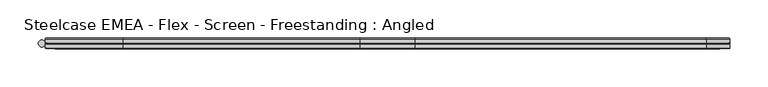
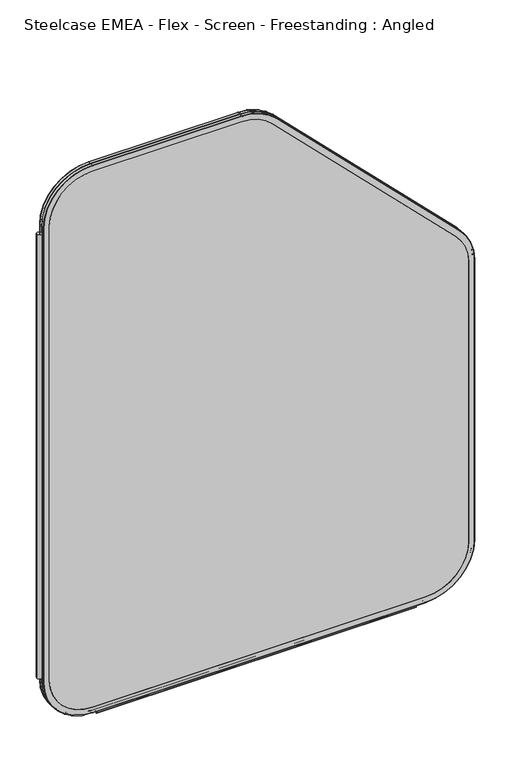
"""IFC4 building model written with IfcOpenShell, lengths in millimetres: furniture geometry, Steelcase EMEA - Flex - Screen - Freestanding : Angled."""

from ifc_helpers import new_model, si_unit, point, frame, frame_2d, origin, place, context, project, spatial, polyline, circle_curve, ellipse_curve, trimmed, segment, composite_curve, outline, extrude, source, transform, mapped, element, save
from ifc_brep_helpers import plane_surface, cylinder_surface, revolved_surface, advanced_brep


def steelcase_emea_flex_screen_freestanding_angled_e22ecdc3(model_context):
    return source(origin(), model_context, "Body", "SolidModel", [
        extrude(outline(composite_curve([segment(trimmed(circle_curve(frame_2d((4.5307839, 0.0)), 4.572), [point((-0.0412161, 0.0))], [point((9.1027839, 0.0))], False, "CARTESIAN"), True, "CONTINUOUS"), segment(trimmed(circle_curve(frame_2d((4.5307839, 0.0)), 4.572), [point((9.1027839, 0.0))], [point((-0.0412161, 0.0))], False, "CARTESIAN"), True, "CONTINUOUS")], self_intersect=False)), frame((0.0, 0.0, 115.57), z_axis=(0.0, 0.0, 1.0), x_axis=(1.0, 0.0, 0.0)), (0.0, 0.0, 1.0), 968.86),
        advanced_brep(
        [(110.7653521, 5.9845715, 4.9996464), (9.1653521, 5.9845715, 106.5996464), (10.0387806, 6.858, 106.5996464), (110.7653521, 6.858, 5.8730749), (110.7653521, 0.762, 4.9996464), (9.1653521, 0.762, 106.5996464), (110.7653521, 0.0, 5.7616464), (9.9273521, 0.0, 106.5996464), (110.7653521, 6.858, 17.6996464), (21.8653521, 6.858, 106.5996464), (21.8653521, 0.0, 106.5996464), (110.7653521, 0.0, 17.6996464), (798.4, 6.858, 5.8730749), (798.4, 5.9845715, 4.9996464), (798.4, 0.762, 4.9996464), (798.4, 0.0, 5.7616464), (798.4, 0.0, 17.6996464), (798.4, 6.858, 17.6996464), (900.0, 5.9845715, 106.5996464), (899.1265715, 6.858, 106.5996464), (900.0, 0.762, 106.5996464), (899.238, 0.0, 106.5996464), (887.3, 6.858, 106.5996464), (887.3, 0.0, 106.5996464), (899.1265715, 6.858, 718.9152099), (900.0, 5.9845715, 718.9152099), (900.0, 0.762, 718.9152099), (899.238, 0.0, 718.9152099), (887.3, 0.0, 718.9152099), (887.3, 6.858, 718.9152099), (870.242049, 5.9845715, 790.7572588), (869.6244418, 6.858, 790.1396516), (870.242049, 0.762, 790.7572588), (869.7032336, 0.0, 790.2184435), (861.2617928, 6.858, 781.7770027), (861.2617928, 0.0, 781.7770027), (490.1396516, 6.858, 1169.6244418), (490.7572588, 5.9845715, 1170.242049), (490.7572588, 0.762, 1170.242049), (490.2184435, 0.0, 1169.7032336), (481.7770027, 0.0, 1161.2617928), (481.7770027, 6.858, 1161.2617928), (418.9152099, 5.9845715, 1200.0), (418.9152099, 6.858, 1199.1265715), (418.9152099, 0.762, 1200.0), (418.9152099, 0.0, 1199.238), (418.9152099, 6.858, 1187.3), (418.9152099, 0.0, 1187.3), (110.7653521, 6.858, 1199.1265715), (110.7653521, 5.9845715, 1200.0), (110.7653521, 0.762, 1200.0), (110.7653521, 0.0, 1199.238), (110.7653521, 0.0, 1187.3), (110.7653521, 6.858, 1187.3), (9.1653521, 5.9845715, 1098.4), (10.0387806, 6.858, 1098.4), (9.1653521, 0.762, 1098.4), (9.9273521, 0.0, 1098.4), (21.8653521, 6.858, 1098.4), (21.8653521, 0.0, 1098.4)],
        [
            (0, 1, circle_curve(frame((110.7653521, 5.9845715, 106.5996464), z_axis=(0.0, 1.0, 0.0), x_axis=(-1.0, 0.0, 0.0)), 101.6)),
            (1, 2, circle_curve(frame((10.0387806, 5.9845715, 106.5996464), z_axis=(0.0, 0.0, -1.0), x_axis=(0.0, -1.0, 0.0)), 0.8734285)),
            (2, 3, circle_curve(frame((110.7653521, 6.858, 106.5996464), z_axis=(0.0, -1.0, 0.0), x_axis=(-1.0, 0.0, 0.0)), 100.7265715)),
            (3, 0, circle_curve(frame((110.7653521, 5.9845715, 5.8730749), z_axis=(-1.0, 0.0, 0.0), x_axis=(0.0, -1.0, 0.0)), 0.8734285)),
            (4, 5, circle_curve(frame((110.7653521, 0.762, 106.5996464), z_axis=(0.0, 1.0, 0.0), x_axis=(-1.0, 0.0, 0.0)), 101.6)),
            (5, 1),
            (0, 4),
            (6, 7, circle_curve(frame((110.7653521, 0.0, 106.5996464), z_axis=(0.0, 1.0, 0.0), x_axis=(-1.0, 0.0, 0.0)), 100.838)),
            (7, 5, circle_curve(frame((9.9273521, 0.762, 106.5996464), z_axis=(0.0, 0.0, -1.0), x_axis=(0.0, -1.0, 0.0)), 0.762)),
            (4, 6, circle_curve(frame((110.7653521, 0.762, 5.7616464), z_axis=(-1.0, 0.0, 0.0), x_axis=(0.0, -1.0, 0.0)), 0.762)),
            (8, 9, circle_curve(frame((110.7653521, 6.858, 106.5996464), z_axis=(0.0, 1.0, 0.0), x_axis=(-1.0, 0.0, 0.0)), 88.9)),
            (9, 10),
            (10, 11, circle_curve(frame((110.7653521, 0.0, 106.5996464), z_axis=(0.0, -1.0, 0.0), x_axis=(-1.0, 0.0, 0.0)), 88.9)),
            (11, 8),
            (3, 12),
            (12, 13, circle_curve(frame((798.4, 5.9845715, 5.8730749), z_axis=(-1.0, 0.0, 0.0), x_axis=(0.0, -1.0, 0.0)), 0.8734285)),
            (13, 0),
            (13, 14),
            (14, 4),
            (14, 15, circle_curve(frame((798.4, 0.762, 5.7616464), z_axis=(-1.0, 0.0, 0.0), x_axis=(0.0, -1.0, 0.0)), 0.762)),
            (15, 6),
            (11, 16),
            (16, 17),
            (17, 8),
            (18, 13, circle_curve(frame((798.4, 5.9845715, 106.5996464), z_axis=(0.0, 1.0, 0.0), x_axis=(0.0, 0.0, -1.0)), 101.6)),
            (12, 19, circle_curve(frame((798.4, 6.858, 106.5996464), z_axis=(0.0, -1.0, 0.0), x_axis=(0.0, 0.0, -1.0)), 100.7265715)),
            (19, 18, circle_curve(frame((899.1265715, 5.9845715, 106.5996464), z_axis=(0.0, 0.0, -1.0), x_axis=(0.0, -1.0, 0.0)), 0.8734285)),
            (20, 14, circle_curve(frame((798.4, 0.762, 106.5996464), z_axis=(0.0, 1.0, 0.0), x_axis=(0.0, 0.0, -1.0)), 101.6)),
            (18, 20),
            (21, 15, circle_curve(frame((798.4, 0.0, 106.5996464), z_axis=(0.0, 1.0, 0.0), x_axis=(0.0, 0.0, -1.0)), 100.838)),
            (20, 21, circle_curve(frame((899.238, 0.762, 106.5996464), z_axis=(0.0, 0.0, -1.0), x_axis=(0.0, -1.0, 0.0)), 0.762)),
            (22, 17, circle_curve(frame((798.4, 6.858, 106.5996464), z_axis=(0.0, 1.0, 0.0), x_axis=(0.0, 0.0, -1.0)), 88.9)),
            (16, 23, circle_curve(frame((798.4, 0.0, 106.5996464), z_axis=(0.0, -1.0, 0.0), x_axis=(0.0, 0.0, -1.0)), 88.9)),
            (23, 22),
            (19, 24),
            (24, 25, circle_curve(frame((899.1265715, 5.9845715, 718.9152099), z_axis=(0.0, 0.0, -1.0), x_axis=(0.0, -1.0, 0.0)), 0.8734285)),
            (25, 18),
            (25, 26),
            (26, 20),
            (26, 27, circle_curve(frame((899.238, 0.762, 718.9152099), z_axis=(0.0, 0.0, -1.0), x_axis=(0.0, -1.0, 0.0)), 0.762)),
            (27, 21),
            (23, 28),
            (28, 29),
            (29, 22),
            (30, 25, circle_curve(frame((798.4, 5.9845715, 718.9152099), z_axis=(0.0, 1.0, 0.0), x_axis=(1.0, 0.0, 0.0)), 101.6)),
            (24, 31, circle_curve(frame((798.4, 6.858, 718.9152099), z_axis=(0.0, -1.0, 0.0), x_axis=(1.0, 0.0, 0.0)), 100.7265715)),
            (31, 30, circle_curve(frame((869.6244418, 5.9845715, 790.1396516), z_axis=(0.7071067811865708, 0.0, -0.7071067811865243), x_axis=(0.0, -1.0, 0.0)), 0.8734285)),
            (32, 26, circle_curve(frame((798.4, 0.762, 718.9152099), z_axis=(0.0, 1.0, 0.0), x_axis=(1.0, 0.0, 0.0)), 101.6)),
            (30, 32),
            (33, 27, circle_curve(frame((798.4, 0.0, 718.9152099), z_axis=(0.0, 1.0, 0.0), x_axis=(1.0, 0.0, 0.0)), 100.838)),
            (32, 33, circle_curve(frame((869.7032336, 0.762, 790.2184435), z_axis=(0.7071067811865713, 0.0, -0.7071067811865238), x_axis=(0.0, -1.0, 0.0)), 0.762)),
            (34, 29, circle_curve(frame((798.4, 6.858, 718.9152099), z_axis=(0.0, 1.0, 0.0), x_axis=(1.0, 0.0, 0.0)), 88.9)),
            (28, 35, circle_curve(frame((798.4, 0.0, 718.9152099), z_axis=(0.0, -1.0, 0.0), x_axis=(1.0, 0.0, 0.0)), 88.9)),
            (35, 34),
            (31, 36),
            (36, 37, circle_curve(frame((490.1396516, 5.9845715, 1169.6244418), z_axis=(0.7071067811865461, 0.0, -0.7071067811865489), x_axis=(0.0, -1.0, 0.0)), 0.8734285)),
            (37, 30),
            (37, 38),
            (38, 32),
            (38, 39, circle_curve(frame((490.2184435, 0.762, 1169.7032336), z_axis=(0.7071067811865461, 0.0, -0.7071067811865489), x_axis=(0.0, -1.0, 0.0)), 0.762)),
            (39, 33),
            (35, 40),
            (40, 41),
            (41, 34),
            (42, 37, circle_curve(frame((418.9152099, 5.9845715, 1098.4), z_axis=(0.0, 1.0, 0.0), x_axis=(0.7071067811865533, 0.0, 0.7071067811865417)), 101.6)),
            (36, 43, circle_curve(frame((418.9152099, 6.858, 1098.4), z_axis=(0.0, -1.0, 0.0), x_axis=(0.7071067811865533, 0.0, 0.7071067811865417)), 100.7265715)),
            (43, 42, circle_curve(frame((418.9152099, 5.9845715, 1199.1265715), z_axis=(1.0, 0.0, 0.0), x_axis=(0.0, -1.0, 0.0)), 0.8734285)),
            (44, 38, circle_curve(frame((418.9152099, 0.762, 1098.4), z_axis=(0.0, 1.0, 0.0), x_axis=(0.7071067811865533, 0.0, 0.7071067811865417)), 101.6)),
            (42, 44),
            (45, 39, circle_curve(frame((418.9152099, 0.0, 1098.4), z_axis=(0.0, 1.0, 0.0), x_axis=(0.7071067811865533, 0.0, 0.7071067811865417)), 100.838)),
            (44, 45, circle_curve(frame((418.9152099, 0.762, 1199.238), z_axis=(1.0, 0.0, 0.0), x_axis=(0.0, -1.0, 0.0)), 0.762)),
            (46, 41, circle_curve(frame((418.9152099, 6.858, 1098.4), z_axis=(0.0, 1.0, 0.0), x_axis=(0.7071067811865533, 0.0, 0.7071067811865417)), 88.9)),
            (40, 47, circle_curve(frame((418.9152099, 0.0, 1098.4), z_axis=(0.0, -1.0, 0.0), x_axis=(0.7071067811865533, 0.0, 0.7071067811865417)), 88.9)),
            (47, 46),
            (43, 48),
            (48, 49, circle_curve(frame((110.7653521, 5.9845715, 1199.1265715), z_axis=(1.0, 0.0, 0.0), x_axis=(0.0, -1.0, 0.0)), 0.8734285)),
            (49, 42),
            (49, 50),
            (50, 44),
            (50, 51, circle_curve(frame((110.7653521, 0.762, 1199.238), z_axis=(1.0, 0.0, 0.0), x_axis=(0.0, -1.0, 0.0)), 0.762)),
            (51, 45),
            (47, 52),
            (52, 53),
            (53, 46),
            (54, 49, circle_curve(frame((110.7653521, 5.9845715, 1098.4), z_axis=(0.0, 1.0, 0.0), x_axis=(0.0, 0.0, 1.0)), 101.6)),
            (48, 55, circle_curve(frame((110.7653521, 6.858, 1098.4), z_axis=(0.0, -1.0, 0.0), x_axis=(0.0, 0.0, 1.0)), 100.7265715)),
            (55, 54, circle_curve(frame((10.0387806, 5.9845715, 1098.4), z_axis=(0.0, 0.0, 1.0), x_axis=(0.0, -1.0, 0.0)), 0.8734285)),
            (56, 50, circle_curve(frame((110.7653521, 0.762, 1098.4), z_axis=(0.0, 1.0, 0.0), x_axis=(0.0, 0.0, 1.0)), 101.6)),
            (54, 56),
            (57, 51, circle_curve(frame((110.7653521, 0.0, 1098.4), z_axis=(0.0, 1.0, 0.0), x_axis=(0.0, 0.0, 1.0)), 100.838)),
            (56, 57, circle_curve(frame((9.9273521, 0.762, 1098.4), z_axis=(0.0, 0.0, 1.0), x_axis=(0.0, -1.0, 0.0)), 0.762)),
            (58, 53, circle_curve(frame((110.7653521, 6.858, 1098.4), z_axis=(0.0, 1.0, 0.0), x_axis=(0.0, 0.0, 1.0)), 88.9)),
            (52, 59, circle_curve(frame((110.7653521, 0.0, 1098.4), z_axis=(0.0, -1.0, 0.0), x_axis=(0.0, 0.0, 1.0)), 88.9)),
            (59, 58),
            (2, 55),
            (58, 9),
            (1, 54),
            (5, 56),
            (7, 57),
            (10, 59),
        ],
        [
            revolved_surface(trimmed(ellipse_curve(frame((10.0387806, 5.9845715, 106.5996464), z_axis=(0.0, 0.0, 1.0), x_axis=(0.0, -1.0, 0.0)), 0.8734285, 0.8734285), [point((10.0387806, 6.858, 106.5996464))], [point((9.1653521, 5.9845715, 106.5996464))], True, "CARTESIAN"), (110.7653521, 0.0, 106.5996464), (0.0, -1.0, 0.0)),
            cylinder_surface(frame((110.7653521, 0.0, 106.5996464), z_axis=(0.0, -1.0, 0.0), x_axis=(-1.0, 0.0, 0.0)), 101.6),
            revolved_surface(trimmed(ellipse_curve(frame((9.9273521, 0.762, 106.5996464), z_axis=(0.0, 0.0, 1.0), x_axis=(0.0, -1.0, 0.0)), 0.762, 0.762), [point((9.1653521, 0.762, 106.5996464))], [point((9.9273521, 0.0, 106.5996464))], True, "CARTESIAN"), (110.7653521, 0.0, 106.5996464), (0.0, -1.0, 0.0)),
            revolved_surface(polyline([(21.865352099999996, 0.0, 106.5996464), (21.865352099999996, 6.858, 106.5996464)]), (110.7653521, 0.0, 106.5996464), (0.0, -1.0, 0.0)),
            cylinder_surface(frame((110.7653521, 5.9845715, 5.8730749), z_axis=(-1.0, 0.0, 0.0), x_axis=(0.0, -1.0, 0.0)), 0.8734285),
            plane_surface(frame((110.7653521, 5.9845715, 4.9996464), z_axis=(0.0, 0.0, -1.0), x_axis=(1.0, 0.0, 0.0))),
            cylinder_surface(frame((110.7653521, 0.762, 5.7616464), z_axis=(-1.0, 0.0, 0.0), x_axis=(0.0, -1.0, 0.0)), 0.762),
            plane_surface(frame((110.7653521, 0.0, 17.6996464), z_axis=(0.0, 0.0, 1.0), x_axis=(1.0, 0.0, 0.0))),
            revolved_surface(trimmed(ellipse_curve(frame((798.4, 5.9845715, 5.8730749), z_axis=(-1.0, 0.0, 0.0), x_axis=(0.0, -1.0, 0.0)), 0.8734285, 0.8734285), [point((798.4, 6.858, 5.8730749))], [point((798.4, 5.9845715, 4.9996464))], True, "CARTESIAN"), (798.4, 0.0, 106.5996464), (0.0, -1.0, 0.0)),
            cylinder_surface(frame((798.4, 0.0, 106.5996464), z_axis=(0.0, -1.0, 0.0), x_axis=(0.0, 0.0, -1.0)), 101.6),
            revolved_surface(trimmed(ellipse_curve(frame((798.4, 0.762, 5.7616464), z_axis=(-1.0, 0.0, 0.0), x_axis=(0.0, -1.0, 0.0)), 0.762, 0.762), [point((798.4, 0.762, 4.9996464))], [point((798.4, 0.0, 5.7616464))], True, "CARTESIAN"), (798.4, 0.0, 106.5996464), (0.0, -1.0, 0.0)),
            revolved_surface(polyline([(798.4, 0.0, 17.699646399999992), (798.4, 6.858, 17.699646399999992)]), (798.4, 0.0, 106.5996464), (0.0, -1.0, 0.0)),
            cylinder_surface(frame((899.1265715, 5.9845715, 106.5996464), z_axis=(0.0, 0.0, -1.0), x_axis=(0.0, -1.0, 0.0)), 0.8734285),
            plane_surface(frame((900.0, 5.9845715, 106.5996464), z_axis=(1.0, 0.0, 0.0), x_axis=(0.0, 0.0, 1.0))),
            cylinder_surface(frame((899.238, 0.762, 106.5996464), z_axis=(0.0, 0.0, -1.0), x_axis=(0.0, -1.0, 0.0)), 0.762),
            plane_surface(frame((887.3, 0.0, 106.5996464), z_axis=(-1.0, 0.0, 0.0), x_axis=(0.0, 0.0, 1.0))),
            revolved_surface(trimmed(ellipse_curve(frame((899.1265715, 5.9845715, 718.9152099), z_axis=(0.0, 0.0, -1.0), x_axis=(0.0, -1.0, 0.0)), 0.8734285, 0.8734285), [point((899.1265715, 6.858, 718.9152099))], [point((900.0, 5.9845715, 718.9152099))], True, "CARTESIAN"), (798.4, 0.0, 718.9152099), (0.0, -1.0, 0.0)),
            cylinder_surface(frame((798.4, 0.0, 718.9152099), z_axis=(0.0, -1.0, 0.0), x_axis=(1.0, 0.0, 0.0)), 101.6),
            revolved_surface(trimmed(ellipse_curve(frame((899.238, 0.762, 718.9152099), z_axis=(0.0, 0.0, -1.0), x_axis=(0.0, -1.0, 0.0)), 0.762, 0.762), [point((900.0, 0.762, 718.9152099))], [point((899.238, 0.0, 718.9152099))], True, "CARTESIAN"), (798.4, 0.0, 718.9152099), (0.0, -1.0, 0.0)),
            revolved_surface(polyline([(887.3, 0.0, 718.9152099), (887.3, 6.858, 718.9152099)]), (798.4, 0.0, 718.9152099), (0.0, -1.0, 0.0)),
            cylinder_surface(frame((869.6244418, 5.9845715, 790.1396516), z_axis=(0.7071067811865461, 0.0, -0.7071067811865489), x_axis=(0.0, -1.0, 0.0)), 0.8734285),
            plane_surface(frame((870.242049, 5.9845715, 790.7572588), z_axis=(0.7071067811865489, 0.0, 0.7071067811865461), x_axis=(-0.7071067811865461, 0.0, 0.7071067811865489))),
            cylinder_surface(frame((869.7032336, 0.762, 790.2184435), z_axis=(0.7071067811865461, 0.0, -0.7071067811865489), x_axis=(0.0, -1.0, 0.0)), 0.762),
            plane_surface(frame((861.2617928, 0.0, 781.7770027), z_axis=(-0.707106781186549, 0.0, -0.707106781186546), x_axis=(-0.707106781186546, 0.0, 0.707106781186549))),
            revolved_surface(trimmed(ellipse_curve(frame((490.1396516, 5.9845715, 1169.6244418), z_axis=(0.7071067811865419, 0.0, -0.7071067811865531), x_axis=(0.0, -1.0, 0.0)), 0.8734285, 0.8734285), [point((490.1396516, 6.858, 1169.6244418))], [point((490.7572588, 5.9845715, 1170.242049))], True, "CARTESIAN"), (418.9152099, 0.0, 1098.4), (0.0, -1.0, 0.0)),
            cylinder_surface(frame((418.9152099, 0.0, 1098.4), z_axis=(0.0, -1.0, 0.0), x_axis=(0.7071067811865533, 0.0, 0.7071067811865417)), 101.6),
            revolved_surface(trimmed(ellipse_curve(frame((490.2184435, 0.762, 1169.7032336), z_axis=(0.7071067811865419, 0.0, -0.7071067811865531), x_axis=(0.0, -1.0, 0.0)), 0.762, 0.762), [point((490.7572588, 0.762, 1170.242049))], [point((490.2184435, 0.0, 1169.7032336))], True, "CARTESIAN"), (418.9152099, 0.0, 1098.4), (0.0, -1.0, 0.0)),
            revolved_surface(polyline([(481.7770027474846, 0.0, 1161.2617928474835), (481.7770027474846, 6.858, 1161.2617928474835)]), (418.9152099, 0.0, 1098.4), (0.0, -1.0, 0.0)),
            cylinder_surface(frame((418.9152099, 5.9845715, 1199.1265715), z_axis=(1.0, 0.0, 0.0), x_axis=(0.0, -1.0, 0.0)), 0.8734285),
            plane_surface(frame((418.9152099, 5.9845715, 1200.0), z_axis=(0.0, 0.0, 1.0), x_axis=(-1.0, 0.0, 0.0))),
            cylinder_surface(frame((418.9152099, 0.762, 1199.238), z_axis=(1.0, 0.0, 0.0), x_axis=(0.0, -1.0, 0.0)), 0.762),
            plane_surface(frame((418.9152099, 0.0, 1187.3), z_axis=(0.0, 0.0, -1.0), x_axis=(-1.0, 0.0, 0.0))),
            revolved_surface(trimmed(ellipse_curve(frame((110.7653521, 5.9845715, 1199.1265715), z_axis=(1.0, 0.0, 0.0), x_axis=(0.0, -1.0, 0.0)), 0.8734285, 0.8734285), [point((110.7653521, 6.858, 1199.1265715))], [point((110.7653521, 5.9845715, 1200.0))], True, "CARTESIAN"), (110.7653521, 0.0, 1098.4), (0.0, -1.0, 0.0)),
            cylinder_surface(frame((110.7653521, 0.0, 1098.4), z_axis=(0.0, -1.0, 0.0), x_axis=(0.0, 0.0, 1.0)), 101.6),
            revolved_surface(trimmed(ellipse_curve(frame((110.7653521, 0.762, 1199.238), z_axis=(1.0, 0.0, 0.0), x_axis=(0.0, -1.0, 0.0)), 0.762, 0.762), [point((110.7653521, 0.762, 1200.0))], [point((110.7653521, 0.0, 1199.238))], True, "CARTESIAN"), (110.7653521, 0.0, 1098.4), (0.0, -1.0, 0.0)),
            revolved_surface(polyline([(110.7653521, 0.0, 1187.3000000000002), (110.7653521, 6.858, 1187.3000000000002)]), (110.7653521, 0.0, 1098.4), (0.0, -1.0, 0.0)),
            plane_surface(frame((21.8653521, 6.858, 1098.4), z_axis=(0.0, 1.0, 0.0), x_axis=(0.0, 0.0, -1.0))),
            cylinder_surface(frame((10.0387806, 5.9845715, 1098.4), z_axis=(0.0, 0.0, 1.0), x_axis=(0.0, -1.0, 0.0)), 0.8734285),
            plane_surface(frame((9.1653521, 5.9845715, 1098.4), z_axis=(-1.0, 0.0, 0.0), x_axis=(0.0, 0.0, -1.0))),
            cylinder_surface(frame((9.9273521, 0.762, 1098.4), z_axis=(0.0, 0.0, 1.0), x_axis=(0.0, -1.0, 0.0)), 0.762),
            plane_surface(frame((9.9273521, 0.0, 1098.4), z_axis=(0.0, -1.0, 0.0), x_axis=(0.0, 0.0, -1.0))),
            plane_surface(frame((21.8653521, 0.0, 1098.4), z_axis=(1.0, 0.0, 0.0), x_axis=(0.0, 0.0, -1.0))),
        ],
        [
            (0, [[1, 2, 3, 4]]),
            (1, [[5, 6, -1, 7]]),
            (2, [[8, 9, -5, 10]]),
            (3, [[11, 12, 13, 14]]),
            (4, [[-4, 15, 16, 17]]),
            (5, [[-7, -17, 18, 19]]),
            (6, [[-10, -19, 20, 21]]),
            (7, [[-14, 22, 23, 24]]),
            (8, [[25, -16, 26, 27]]),
            (9, [[28, -18, -25, 29]]),
            (10, [[30, -20, -28, 31]]),
            (11, [[32, -23, 33, 34]]),
            (12, [[-27, 35, 36, 37]]),
            (13, [[-29, -37, 38, 39]]),
            (14, [[-31, -39, 40, 41]]),
            (15, [[-34, 42, 43, 44]]),
            (16, [[45, -36, 46, 47]]),
            (17, [[48, -38, -45, 49]]),
            (18, [[50, -40, -48, 51]]),
            (19, [[52, -43, 53, 54]]),
            (20, [[-47, 55, 56, 57]]),
            (21, [[-49, -57, 58, 59]]),
            (22, [[-51, -59, 60, 61]]),
            (23, [[-54, 62, 63, 64]]),
            (24, [[65, -56, 66, 67]]),
            (25, [[68, -58, -65, 69]]),
            (26, [[70, -60, -68, 71]]),
            (27, [[72, -63, 73, 74]]),
            (28, [[-67, 75, 76, 77]]),
            (29, [[-69, -77, 78, 79]]),
            (30, [[-71, -79, 80, 81]]),
            (31, [[-74, 82, 83, 84]]),
            (32, [[85, -76, 86, 87]]),
            (33, [[88, -78, -85, 89]]),
            (34, [[90, -80, -88, 91]]),
            (35, [[92, -83, 93, 94]]),
            (36, [[95, -86, -75, -66, -55, -46, -35, -26, -15, -3], [-84, -92, 96, -11, -24, -32, -44, -52, -64, -72]]),
            (37, [[-87, -95, -2, 97]]),
            (38, [[-89, -97, -6, 98]]),
            (39, [[-91, -98, -9, 99]]),
            (40, [[-81, -90, -99, -8, -21, -30, -41, -50, -61, -70], [100, -93, -82, -73, -62, -53, -42, -33, -22, -13]]),
            (41, [[-94, -100, -12, -96]]),
        ],
    ),
        advanced_brep(
        [(110.7653521, -0.762, 4.9996464), (9.1653521, -0.762, 106.5996464), (9.9273521, 0.0, 106.5996464), (110.7653521, 0.0, 5.7616464), (110.7653521, -6.096, 4.9996464), (9.1653521, -6.096, 106.5996464), (110.7653521, -6.858, 5.7616464), (9.9273521, -6.858, 106.5996464), (110.7653521, 0.0, 17.6996464), (21.8653521, 0.0, 106.5996464), (21.8653521, -6.858, 106.5996464), (110.7653521, -6.858, 17.6996464), (798.4, 0.0, 5.7616464), (798.4, -0.762, 4.9996464), (798.4, -6.096, 4.9996464), (798.4, -6.858, 5.7616464), (798.4, -6.858, 17.6996464), (798.4, 0.0, 17.6996464), (900.0, -0.762, 106.5996464), (899.238, 0.0, 106.5996464), (900.0, -6.096, 106.5996464), (899.238, -6.858, 106.5996464), (887.3, 0.0, 106.5996464), (887.3, -6.858, 106.5996464), (899.238, 0.0, 718.9152099), (900.0, -0.762, 718.9152099), (900.0, -6.096, 718.9152099), (899.238, -6.858, 718.9152099), (887.3, -6.858, 718.9152099), (887.3, 0.0, 718.9152099), (870.242049, -0.762, 790.7572588), (869.7032336, 0.0, 790.2184435), (870.242049, -6.096, 790.7572588), (869.7032336, -6.858, 790.2184435), (861.2617928, 0.0, 781.7770027), (861.2617928, -6.858, 781.7770027), (490.2184435, 0.0, 1169.7032336), (490.7572588, -0.762, 1170.242049), (490.7572588, -6.096, 1170.242049), (490.2184435, -6.858, 1169.7032336), (481.7770027, -6.858, 1161.2617928), (481.7770027, 0.0, 1161.2617928), (418.9152099, -0.762, 1200.0), (418.9152099, 0.0, 1199.238), (418.9152099, -6.096, 1200.0), (418.9152099, -6.858, 1199.238), (418.9152099, 0.0, 1187.3), (418.9152099, -6.858, 1187.3), (110.7653521, 0.0, 1199.238), (110.7653521, -0.762, 1200.0), (110.7653521, -6.096, 1200.0), (110.7653521, -6.858, 1199.238), (110.7653521, -6.858, 1187.3), (110.7653521, 0.0, 1187.3), (9.1653521, -0.762, 1098.4), (9.9273521, 0.0, 1098.4), (9.1653521, -6.096, 1098.4), (9.9273521, -6.858, 1098.4), (21.8653521, 0.0, 1098.4), (21.8653521, -6.858, 1098.4)],
        [
            (0, 1, circle_curve(frame((110.7653521, -0.762, 106.5996464), z_axis=(0.0, 1.0, 0.0), x_axis=(-1.0, 0.0, 0.0)), 101.6)),
            (1, 2, circle_curve(frame((9.9273521, -0.762, 106.5996464), z_axis=(0.0, 0.0, -1.0), x_axis=(0.0, -1.0, 0.0)), 0.762)),
            (2, 3, circle_curve(frame((110.7653521, 0.0, 106.5996464), z_axis=(0.0, -1.0, 0.0), x_axis=(-1.0, 0.0, 0.0)), 100.838)),
            (3, 0, circle_curve(frame((110.7653521, -0.762, 5.7616464), z_axis=(-1.0, 0.0, 0.0), x_axis=(0.0, -1.0, 0.0)), 0.762)),
            (4, 5, circle_curve(frame((110.7653521, -6.096, 106.5996464), z_axis=(0.0, 1.0, 0.0), x_axis=(-1.0, 0.0, 0.0)), 101.6)),
            (5, 1),
            (0, 4),
            (6, 7, circle_curve(frame((110.7653521, -6.858, 106.5996464), z_axis=(0.0, 1.0, 0.0), x_axis=(-1.0, 0.0, 0.0)), 100.838)),
            (7, 5, circle_curve(frame((9.9273521, -6.096, 106.5996464), z_axis=(0.0, 0.0, -1.0), x_axis=(0.0, -1.0, 0.0)), 0.762)),
            (4, 6, circle_curve(frame((110.7653521, -6.096, 5.7616464), z_axis=(-1.0, 0.0, 0.0), x_axis=(0.0, -1.0, 0.0)), 0.762)),
            (8, 9, circle_curve(frame((110.7653521, 0.0, 106.5996464), z_axis=(0.0, 1.0, 0.0), x_axis=(-1.0, 0.0, 0.0)), 88.9)),
            (9, 10),
            (10, 11, circle_curve(frame((110.7653521, -6.858, 106.5996464), z_axis=(0.0, -1.0, 0.0), x_axis=(-1.0, 0.0, 0.0)), 88.9)),
            (11, 8),
            (3, 12),
            (12, 13, circle_curve(frame((798.4, -0.762, 5.7616464), z_axis=(-1.0, 0.0, 0.0), x_axis=(0.0, -1.0, 0.0)), 0.762)),
            (13, 0),
            (13, 14),
            (14, 4),
            (14, 15, circle_curve(frame((798.4, -6.096, 5.7616464), z_axis=(-1.0, 0.0, 0.0), x_axis=(0.0, -1.0, 0.0)), 0.762)),
            (15, 6),
            (11, 16),
            (16, 17),
            (17, 8),
            (18, 13, circle_curve(frame((798.4, -0.762, 106.5996464), z_axis=(0.0, 1.0, 0.0), x_axis=(0.0, 0.0, -1.0)), 101.6)),
            (12, 19, circle_curve(frame((798.4, 0.0, 106.5996464), z_axis=(0.0, -1.0, 0.0), x_axis=(0.0, 0.0, -1.0)), 100.838)),
            (19, 18, circle_curve(frame((899.238, -0.762, 106.5996464), z_axis=(0.0, 0.0, -1.0), x_axis=(0.0, -1.0, 0.0)), 0.762)),
            (20, 14, circle_curve(frame((798.4, -6.096, 106.5996464), z_axis=(0.0, 1.0, 0.0), x_axis=(0.0, 0.0, -1.0)), 101.6)),
            (18, 20),
            (21, 15, circle_curve(frame((798.4, -6.858, 106.5996464), z_axis=(0.0, 1.0, 0.0), x_axis=(0.0, 0.0, -1.0)), 100.838)),
            (20, 21, circle_curve(frame((899.238, -6.096, 106.5996464), z_axis=(0.0, 0.0, -1.0), x_axis=(0.0, -1.0, 0.0)), 0.762)),
            (22, 17, circle_curve(frame((798.4, 0.0, 106.5996464), z_axis=(0.0, 1.0, 0.0), x_axis=(0.0, 0.0, -1.0)), 88.9)),
            (16, 23, circle_curve(frame((798.4, -6.858, 106.5996464), z_axis=(0.0, -1.0, 0.0), x_axis=(0.0, 0.0, -1.0)), 88.9)),
            (23, 22),
            (19, 24),
            (24, 25, circle_curve(frame((899.238, -0.762, 718.9152099), z_axis=(0.0, 0.0, -1.0), x_axis=(0.0, -1.0, 0.0)), 0.762)),
            (25, 18),
            (25, 26),
            (26, 20),
            (26, 27, circle_curve(frame((899.238, -6.096, 718.9152099), z_axis=(0.0, 0.0, -1.0), x_axis=(0.0, -1.0, 0.0)), 0.762)),
            (27, 21),
            (23, 28),
            (28, 29),
            (29, 22),
            (30, 25, circle_curve(frame((798.4, -0.762, 718.9152099), z_axis=(0.0, 1.0, 0.0), x_axis=(1.0, 0.0, 0.0)), 101.6)),
            (24, 31, circle_curve(frame((798.4, 0.0, 718.9152099), z_axis=(0.0, -1.0, 0.0), x_axis=(1.0, 0.0, 0.0)), 100.838)),
            (31, 30, circle_curve(frame((869.7032336, -0.762, 790.2184435), z_axis=(0.7071067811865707, 0.0, -0.7071067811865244), x_axis=(0.0, -1.0, 0.0)), 0.762)),
            (32, 26, circle_curve(frame((798.4, -6.096, 718.9152099), z_axis=(0.0, 1.0, 0.0), x_axis=(1.0, 0.0, 0.0)), 101.6)),
            (30, 32),
            (33, 27, circle_curve(frame((798.4, -6.858, 718.9152099), z_axis=(0.0, 1.0, 0.0), x_axis=(1.0, 0.0, 0.0)), 100.838)),
            (32, 33, circle_curve(frame((869.7032336, -6.096, 790.2184435), z_axis=(0.7071067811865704, 0.0, -0.7071067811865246), x_axis=(0.0, -1.0, 0.0)), 0.762)),
            (34, 29, circle_curve(frame((798.4, 0.0, 718.9152099), z_axis=(0.0, 1.0, 0.0), x_axis=(1.0, 0.0, 0.0)), 88.9)),
            (28, 35, circle_curve(frame((798.4, -6.858, 718.9152099), z_axis=(0.0, -1.0, 0.0), x_axis=(1.0, 0.0, 0.0)), 88.9)),
            (35, 34),
            (31, 36),
            (36, 37, circle_curve(frame((490.2184435, -0.762, 1169.7032336), z_axis=(0.7071067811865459, 0.0, -0.7071067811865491), x_axis=(0.0, -1.0, 0.0)), 0.762)),
            (37, 30),
            (37, 38),
            (38, 32),
            (38, 39, circle_curve(frame((490.2184435, -6.096, 1169.7032336), z_axis=(0.7071067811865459, 0.0, -0.7071067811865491), x_axis=(0.0, -1.0, 0.0)), 0.762)),
            (39, 33),
            (35, 40),
            (40, 41),
            (41, 34),
            (42, 37, circle_curve(frame((418.9152099, -0.762, 1098.4), z_axis=(0.0, 1.0, 0.0), x_axis=(0.7071067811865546, 0.0, 0.7071067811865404)), 101.6)),
            (36, 43, circle_curve(frame((418.9152099, 0.0, 1098.4), z_axis=(0.0, -1.0, 0.0), x_axis=(0.7071067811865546, 0.0, 0.7071067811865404)), 100.838)),
            (43, 42, circle_curve(frame((418.9152099, -0.762, 1199.238), z_axis=(1.0, 0.0, 0.0), x_axis=(0.0, -1.0, 0.0)), 0.762)),
            (44, 38, circle_curve(frame((418.9152099, -6.096, 1098.4), z_axis=(0.0, 1.0, 0.0), x_axis=(0.7071067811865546, 0.0, 0.7071067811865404)), 101.6)),
            (42, 44),
            (45, 39, circle_curve(frame((418.9152099, -6.858, 1098.4), z_axis=(0.0, 1.0, 0.0), x_axis=(0.7071067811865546, 0.0, 0.7071067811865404)), 100.838)),
            (44, 45, circle_curve(frame((418.9152099, -6.096, 1199.238), z_axis=(1.0, 0.0, 0.0), x_axis=(0.0, -1.0, 0.0)), 0.762)),
            (46, 41, circle_curve(frame((418.9152099, 0.0, 1098.4), z_axis=(0.0, 1.0, 0.0), x_axis=(0.7071067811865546, 0.0, 0.7071067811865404)), 88.9)),
            (40, 47, circle_curve(frame((418.9152099, -6.858, 1098.4), z_axis=(0.0, -1.0, 0.0), x_axis=(0.7071067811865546, 0.0, 0.7071067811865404)), 88.9)),
            (47, 46),
            (43, 48),
            (48, 49, circle_curve(frame((110.7653521, -0.762, 1199.238), z_axis=(1.0, 0.0, 0.0), x_axis=(0.0, -1.0, 0.0)), 0.762)),
            (49, 42),
            (49, 50),
            (50, 44),
            (50, 51, circle_curve(frame((110.7653521, -6.096, 1199.238), z_axis=(1.0, 0.0, 0.0), x_axis=(0.0, -1.0, 0.0)), 0.762)),
            (51, 45),
            (47, 52),
            (52, 53),
            (53, 46),
            (54, 49, circle_curve(frame((110.7653521, -0.762, 1098.4), z_axis=(0.0, 1.0, 0.0), x_axis=(0.0, 0.0, 1.0)), 101.6)),
            (48, 55, circle_curve(frame((110.7653521, 0.0, 1098.4), z_axis=(0.0, -1.0, 0.0), x_axis=(0.0, 0.0, 1.0)), 100.838)),
            (55, 54, circle_curve(frame((9.9273521, -0.762, 1098.4), z_axis=(0.0, 0.0, 1.0), x_axis=(0.0, -1.0, 0.0)), 0.762)),
            (56, 50, circle_curve(frame((110.7653521, -6.096, 1098.4), z_axis=(0.0, 1.0, 0.0), x_axis=(0.0, 0.0, 1.0)), 101.6)),
            (54, 56),
            (57, 51, circle_curve(frame((110.7653521, -6.858, 1098.4), z_axis=(0.0, 1.0, 0.0), x_axis=(0.0, 0.0, 1.0)), 100.838)),
            (56, 57, circle_curve(frame((9.9273521, -6.096, 1098.4), z_axis=(0.0, 0.0, 1.0), x_axis=(0.0, -1.0, 0.0)), 0.762)),
            (58, 53, circle_curve(frame((110.7653521, 0.0, 1098.4), z_axis=(0.0, 1.0, 0.0), x_axis=(0.0, 0.0, 1.0)), 88.9)),
            (52, 59, circle_curve(frame((110.7653521, -6.858, 1098.4), z_axis=(0.0, -1.0, 0.0), x_axis=(0.0, 0.0, 1.0)), 88.9)),
            (59, 58),
            (2, 55),
            (58, 9),
            (1, 54),
            (5, 56),
            (7, 57),
            (10, 59),
        ],
        [
            revolved_surface(trimmed(ellipse_curve(frame((9.9273521, -0.762, 106.5996464), z_axis=(0.0, 0.0, 1.0), x_axis=(0.0, -1.0, 0.0)), 0.762, 0.762), [point((9.9273521, 0.0, 106.5996464))], [point((9.1653521, -0.762, 106.5996464))], True, "CARTESIAN"), (110.7653521, 0.0, 106.5996464), (0.0, -1.0, 0.0)),
            cylinder_surface(frame((110.7653521, 0.0, 106.5996464), z_axis=(0.0, -1.0, 0.0), x_axis=(-1.0, 0.0, 0.0)), 101.6),
            revolved_surface(trimmed(ellipse_curve(frame((9.9273521, -6.096, 106.5996464), z_axis=(0.0, 0.0, 1.0), x_axis=(0.0, -1.0, 0.0)), 0.762, 0.762), [point((9.1653521, -6.096, 106.5996464))], [point((9.9273521, -6.858, 106.5996464))], True, "CARTESIAN"), (110.7653521, 0.0, 106.5996464), (0.0, -1.0, 0.0)),
            revolved_surface(polyline([(21.865352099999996, -6.858, 106.5996464), (21.865352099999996, 0.0, 106.5996464)]), (110.7653521, 0.0, 106.5996464), (0.0, -1.0, 0.0)),
            cylinder_surface(frame((110.7653521, -0.762, 5.7616464), z_axis=(-1.0, 0.0, 0.0), x_axis=(0.0, -1.0, 0.0)), 0.762),
            plane_surface(frame((110.7653521, -0.762, 4.9996464), z_axis=(0.0, 0.0, -1.0), x_axis=(1.0, 0.0, 0.0))),
            cylinder_surface(frame((110.7653521, -6.096, 5.7616464), z_axis=(-1.0, 0.0, 0.0), x_axis=(0.0, -1.0, 0.0)), 0.762),
            plane_surface(frame((110.7653521, -6.858, 17.6996464), z_axis=(0.0, 0.0, 1.0), x_axis=(1.0, 0.0, 0.0))),
            revolved_surface(trimmed(ellipse_curve(frame((798.4, -0.762, 5.7616464), z_axis=(-1.0, 0.0, 0.0), x_axis=(0.0, -1.0, 0.0)), 0.762, 0.762), [point((798.4, 0.0, 5.7616464))], [point((798.4, -0.762, 4.9996464))], True, "CARTESIAN"), (798.4, 0.0, 106.5996464), (0.0, -1.0, 0.0)),
            cylinder_surface(frame((798.4, 0.0, 106.5996464), z_axis=(0.0, -1.0, 0.0), x_axis=(0.0, 0.0, -1.0)), 101.6),
            revolved_surface(trimmed(ellipse_curve(frame((798.4, -6.096, 5.7616464), z_axis=(-1.0, 0.0, 0.0), x_axis=(0.0, -1.0, 0.0)), 0.762, 0.762), [point((798.4, -6.096, 4.9996464))], [point((798.4, -6.858, 5.7616464))], True, "CARTESIAN"), (798.4, 0.0, 106.5996464), (0.0, -1.0, 0.0)),
            revolved_surface(polyline([(798.4, -6.858, 17.699646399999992), (798.4, 0.0, 17.699646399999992)]), (798.4, 0.0, 106.5996464), (0.0, -1.0, 0.0)),
            cylinder_surface(frame((899.238, -0.762, 106.5996464), z_axis=(0.0, 0.0, -1.0), x_axis=(0.0, -1.0, 0.0)), 0.762),
            plane_surface(frame((900.0, -0.762, 106.5996464), z_axis=(1.0, 0.0, 0.0), x_axis=(0.0, 0.0, 1.0))),
            cylinder_surface(frame((899.238, -6.096, 106.5996464), z_axis=(0.0, 0.0, -1.0), x_axis=(0.0, -1.0, 0.0)), 0.762),
            plane_surface(frame((887.3, -6.858, 106.5996464), z_axis=(-1.0, 0.0, 0.0), x_axis=(0.0, 0.0, 1.0))),
            revolved_surface(trimmed(ellipse_curve(frame((899.238, -0.762, 718.9152099), z_axis=(0.0, 0.0, -1.0), x_axis=(0.0, -1.0, 0.0)), 0.762, 0.762), [point((899.238, 0.0, 718.9152099))], [point((900.0, -0.762, 718.9152099))], True, "CARTESIAN"), (798.4, 0.0, 718.9152099), (0.0, -1.0, 0.0)),
            cylinder_surface(frame((798.4, 0.0, 718.9152099), z_axis=(0.0, -1.0, 0.0), x_axis=(1.0, 0.0, 0.0)), 101.6),
            revolved_surface(trimmed(ellipse_curve(frame((899.238, -6.096, 718.9152099), z_axis=(0.0, 0.0, -1.0), x_axis=(0.0, -1.0, 0.0)), 0.762, 0.762), [point((900.0, -6.096, 718.9152099))], [point((899.238, -6.858, 718.9152099))], True, "CARTESIAN"), (798.4, 0.0, 718.9152099), (0.0, -1.0, 0.0)),
            revolved_surface(polyline([(887.3, -6.858, 718.9152099), (887.3, 0.0, 718.9152099)]), (798.4, 0.0, 718.9152099), (0.0, -1.0, 0.0)),
            cylinder_surface(frame((869.7032336, -0.762, 790.2184435), z_axis=(0.7071067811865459, 0.0, -0.7071067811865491), x_axis=(0.0, -1.0, 0.0)), 0.762),
            plane_surface(frame((870.242049, -0.762, 790.7572588), z_axis=(0.7071067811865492, 0.0, 0.7071067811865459), x_axis=(-0.7071067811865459, 0.0, 0.7071067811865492))),
            cylinder_surface(frame((869.7032336, -6.096, 790.2184435), z_axis=(0.7071067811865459, 0.0, -0.7071067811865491), x_axis=(0.0, -1.0, 0.0)), 0.762),
            plane_surface(frame((861.2617928, -6.858, 781.7770027), z_axis=(-0.7071067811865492, 0.0, -0.7071067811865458), x_axis=(-0.7071067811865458, 0.0, 0.7071067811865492))),
            revolved_surface(trimmed(ellipse_curve(frame((490.2184435, -0.762, 1169.7032336), z_axis=(0.7071067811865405, 0.0, -0.7071067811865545), x_axis=(0.0, -1.0, 0.0)), 0.762, 0.762), [point((490.2184435, 0.0, 1169.7032336))], [point((490.7572588, -0.762, 1170.242049))], True, "CARTESIAN"), (418.9152099, 0.0, 1098.4), (0.0, -1.0, 0.0)),
            cylinder_surface(frame((418.9152099, 0.0, 1098.4), z_axis=(0.0, -1.0, 0.0), x_axis=(0.7071067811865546, 0.0, 0.7071067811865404)), 101.6),
            revolved_surface(trimmed(ellipse_curve(frame((490.2184435, -6.096, 1169.7032336), z_axis=(0.7071067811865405, 0.0, -0.7071067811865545), x_axis=(0.0, -1.0, 0.0)), 0.762, 0.762), [point((490.7572588, -6.096, 1170.242049))], [point((490.2184435, -6.858, 1169.7032336))], True, "CARTESIAN"), (418.9152099, 0.0, 1098.4), (0.0, -1.0, 0.0)),
            revolved_surface(polyline([(481.7770027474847, -6.858, 1161.2617928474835), (481.7770027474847, 0.0, 1161.2617928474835)]), (418.9152099, 0.0, 1098.4), (0.0, -1.0, 0.0)),
            cylinder_surface(frame((418.9152099, -0.762, 1199.238), z_axis=(1.0, 0.0, 0.0), x_axis=(0.0, -1.0, 0.0)), 0.762),
            plane_surface(frame((418.9152099, -0.762, 1200.0), z_axis=(0.0, 0.0, 1.0), x_axis=(-1.0, 0.0, 0.0))),
            cylinder_surface(frame((418.9152099, -6.096, 1199.238), z_axis=(1.0, 0.0, 0.0), x_axis=(0.0, -1.0, 0.0)), 0.762),
            plane_surface(frame((418.9152099, -6.858, 1187.3), z_axis=(0.0, 0.0, -1.0), x_axis=(-1.0, 0.0, 0.0))),
            revolved_surface(trimmed(ellipse_curve(frame((110.7653521, -0.762, 1199.238), z_axis=(1.0, 0.0, 0.0), x_axis=(0.0, -1.0, 0.0)), 0.762, 0.762), [point((110.7653521, 0.0, 1199.238))], [point((110.7653521, -0.762, 1200.0))], True, "CARTESIAN"), (110.7653521, 0.0, 1098.4), (0.0, -1.0, 0.0)),
            cylinder_surface(frame((110.7653521, 0.0, 1098.4), z_axis=(0.0, -1.0, 0.0), x_axis=(0.0, 0.0, 1.0)), 101.6),
            revolved_surface(trimmed(ellipse_curve(frame((110.7653521, -6.096, 1199.238), z_axis=(1.0, 0.0, 0.0), x_axis=(0.0, -1.0, 0.0)), 0.762, 0.762), [point((110.7653521, -6.096, 1200.0))], [point((110.7653521, -6.858, 1199.238))], True, "CARTESIAN"), (110.7653521, 0.0, 1098.4), (0.0, -1.0, 0.0)),
            revolved_surface(polyline([(110.7653521, -6.858, 1187.3000000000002), (110.7653521, 0.0, 1187.3000000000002)]), (110.7653521, 0.0, 1098.4), (0.0, -1.0, 0.0)),
            plane_surface(frame((21.8653521, 0.0, 1098.4), z_axis=(0.0, 1.0, 0.0), x_axis=(0.0, 0.0, -1.0))),
            cylinder_surface(frame((9.9273521, -0.762, 1098.4), z_axis=(0.0, 0.0, 1.0), x_axis=(0.0, -1.0, 0.0)), 0.762),
            plane_surface(frame((9.1653521, -0.762, 1098.4), z_axis=(-1.0, 0.0, 0.0), x_axis=(0.0, 0.0, -1.0))),
            cylinder_surface(frame((9.9273521, -6.096, 1098.4), z_axis=(0.0, 0.0, 1.0), x_axis=(0.0, -1.0, 0.0)), 0.762),
            plane_surface(frame((9.9273521, -6.858, 1098.4), z_axis=(0.0, -1.0, 0.0), x_axis=(0.0, 0.0, -1.0))),
            plane_surface(frame((21.8653521, -6.858, 1098.4), z_axis=(1.0, 0.0, 0.0), x_axis=(0.0, 0.0, -1.0))),
        ],
        [
            (0, [[1, 2, 3, 4]]),
            (1, [[5, 6, -1, 7]]),
            (2, [[8, 9, -5, 10]]),
            (3, [[11, 12, 13, 14]]),
            (4, [[-4, 15, 16, 17]]),
            (5, [[-7, -17, 18, 19]]),
            (6, [[-10, -19, 20, 21]]),
            (7, [[-14, 22, 23, 24]]),
            (8, [[25, -16, 26, 27]]),
            (9, [[28, -18, -25, 29]]),
            (10, [[30, -20, -28, 31]]),
            (11, [[32, -23, 33, 34]]),
            (12, [[-27, 35, 36, 37]]),
            (13, [[-29, -37, 38, 39]]),
            (14, [[-31, -39, 40, 41]]),
            (15, [[-34, 42, 43, 44]]),
            (16, [[45, -36, 46, 47]]),
            (17, [[48, -38, -45, 49]]),
            (18, [[50, -40, -48, 51]]),
            (19, [[52, -43, 53, 54]]),
            (20, [[-47, 55, 56, 57]]),
            (21, [[-49, -57, 58, 59]]),
            (22, [[-51, -59, 60, 61]]),
            (23, [[-54, 62, 63, 64]]),
            (24, [[65, -56, 66, 67]]),
            (25, [[68, -58, -65, 69]]),
            (26, [[70, -60, -68, 71]]),
            (27, [[72, -63, 73, 74]]),
            (28, [[-67, 75, 76, 77]]),
            (29, [[-69, -77, 78, 79]]),
            (30, [[-71, -79, 80, 81]]),
            (31, [[-74, 82, 83, 84]]),
            (32, [[85, -76, 86, 87]]),
            (33, [[88, -78, -85, 89]]),
            (34, [[90, -80, -88, 91]]),
            (35, [[92, -83, 93, 94]]),
            (36, [[95, -86, -75, -66, -55, -46, -35, -26, -15, -3], [-84, -92, 96, -11, -24, -32, -44, -52, -64, -72]]),
            (37, [[-87, -95, -2, 97]]),
            (38, [[-89, -97, -6, 98]]),
            (39, [[-91, -98, -9, 99]]),
            (40, [[-81, -90, -99, -8, -21, -30, -41, -50, -61, -70], [100, -93, -82, -73, -62, -53, -42, -33, -22, -13]]),
            (41, [[-94, -100, -12, -96]]),
        ],
    ),
        extrude(outline(composite_curve([segment(polyline([(1187.3, 418.9152099), (1187.3, 110.7653521)]), True, "CONTINUOUS"), segment(trimmed(circle_curve(frame_2d((1098.4, 110.7653521)), 88.9), [point((1187.3, 110.7653521))], [point((1098.4, 21.8653521))], False, "CARTESIAN"), True, "CONTINUOUS"), segment(polyline([(1098.4, 21.8653521), (106.5996464, 21.8653521)]), True, "CONTINUOUS"), segment(trimmed(circle_curve(frame_2d((106.5996464, 110.7653521)), 88.9), [point((106.5996464, 21.8653521))], [point((17.6996464, 110.7653521))], False, "CARTESIAN"), True, "CONTINUOUS"), segment(polyline([(17.6996464, 110.7653521), (17.6996464, 798.4)]), True, "CONTINUOUS"), segment(trimmed(circle_curve(frame_2d((106.5996464, 798.4)), 88.9), [point((17.6996464, 798.4))], [point((106.5996464, 887.3))], False, "CARTESIAN"), True, "CONTINUOUS"), segment(polyline([(106.5996464, 887.3), (718.9152099, 887.3)]), True, "CONTINUOUS"), segment(trimmed(circle_curve(frame_2d((718.9152099, 798.4)), 88.9), [point((718.9152099, 887.3))], [point((781.7770027, 861.2617928))], False, "CARTESIAN"), True, "CONTINUOUS"), segment(polyline([(781.7770027, 861.2617928), (1161.2617928, 481.7770027)]), True, "CONTINUOUS"), segment(trimmed(circle_curve(frame_2d((1098.4, 418.9152099)), 88.9), [point((1161.2617928, 481.7770027))], [point((1187.3, 418.9152099))], False, "CARTESIAN"), True, "CONTINUOUS")], self_intersect=False)), frame((0.0, 0.0, 0.0), z_axis=(0.0, 1.0, 0.0), x_axis=(0.0, 0.0, 1.0)), (0.0, 0.0, 1.0), 6.858),
        extrude(outline(composite_curve([segment(polyline([(1187.3, 418.9152099), (1187.3, 110.7653521)]), True, "CONTINUOUS"), segment(trimmed(circle_curve(frame_2d((1098.4, 110.7653521)), 88.9), [point((1187.3, 110.7653521))], [point((1098.4, 21.8653521))], False, "CARTESIAN"), True, "CONTINUOUS"), segment(polyline([(1098.4, 21.8653521), (106.5996464, 21.8653521)]), True, "CONTINUOUS"), segment(trimmed(circle_curve(frame_2d((106.5996464, 110.7653521)), 88.9), [point((106.5996464, 21.8653521))], [point((17.6996464, 110.7653521))], False, "CARTESIAN"), True, "CONTINUOUS"), segment(polyline([(17.6996464, 110.7653521), (17.6996464, 798.4)]), True, "CONTINUOUS"), segment(trimmed(circle_curve(frame_2d((106.5996464, 798.4)), 88.9), [point((17.6996464, 798.4))], [point((106.5996464, 887.3))], False, "CARTESIAN"), True, "CONTINUOUS"), segment(polyline([(106.5996464, 887.3), (718.9152099, 887.3)]), True, "CONTINUOUS"), segment(trimmed(circle_curve(frame_2d((718.9152099, 798.4)), 88.9), [point((718.9152099, 887.3))], [point((781.7770027, 861.2617928))], False, "CARTESIAN"), True, "CONTINUOUS"), segment(polyline([(781.7770027, 861.2617928), (1161.2617928, 481.7770027)]), True, "CONTINUOUS"), segment(trimmed(circle_curve(frame_2d((1098.4, 418.9152099)), 88.9), [point((1161.2617928, 481.7770027))], [point((1187.3, 418.9152099))], False, "CARTESIAN"), True, "CONTINUOUS")], self_intersect=False)), frame((0.0, -6.858, 0.0), z_axis=(0.0, 1.0, 0.0), x_axis=(0.0, 0.0, 1.0)), (0.0, 0.0, 1.0), 6.858),
        extrude(outline(composite_curve([segment(trimmed(circle_curve(frame_2d((3.5, 2.4751953)), 2.5), [point((3.5, 4.9751953))], [point((1.4656663, 1.0220998))], False, "CARTESIAN"), True, "CONTINUOUS"), segment(trimmed(circle_curve(frame_2d((0.0, -0.0248047)), 1.8011626), [point((1.4656663, 1.0220998))], [point((-1.4656663, 1.0220998))], True, "CARTESIAN"), True, "CONTINUOUS"), segment(trimmed(circle_curve(frame_2d((-3.5, 2.4751953)), 2.5), [point((-1.4656663, 1.0220998))], [point((-3.5, 4.9751953))], False, "CARTESIAN"), True, "CONTINUOUS"), segment(trimmed(circle_curve(frame_2d((-3.5, 4.4751953)), 0.5), [point((-3.5, 4.9751953))], [point((-3.5, 3.9751953))], False, "CARTESIAN"), True, "CONTINUOUS"), segment(trimmed(circle_curve(frame_2d((-3.5, 2.4751953)), 1.5), [point((-3.5, 3.9751953))], [point((-2.3025096, 1.5718589))], True, "CARTESIAN"), True, "CONTINUOUS"), segment(trimmed(circle_curve(frame_2d((-10.3325937, 7.629417)), 10.0586411), [point((-2.3025096, 1.5718589))], [point((-0.714976, 4.6836248))], True, "CARTESIAN"), True, "CONTINUOUS"), segment(trimmed(circle_curve(frame_2d((0.0, 4.4646339)), 0.7477618), [point((-0.714976, 4.6836248))], [point((0.714976, 4.6836248))], False, "CARTESIAN"), True, "CONTINUOUS"), segment(trimmed(circle_curve(frame_2d((10.3325937, 7.629417)), 10.0586411), [point((0.714976, 4.6836248))], [point((2.3025096, 1.5718589))], True, "CARTESIAN"), True, "CONTINUOUS"), segment(trimmed(circle_curve(frame_2d((3.5, 2.4751953)), 1.5), [point((2.3025096, 1.5718589))], [point((3.5, 3.9751953))], True, "CARTESIAN"), True, "CONTINUOUS"), segment(trimmed(circle_curve(frame_2d((3.5, 4.4751953)), 0.5), [point((3.5, 3.9751953))], [point((3.5, 4.9751953))], False, "CARTESIAN"), True, "CONTINUOUS")], self_intersect=False)), frame((120.0, 0.0, 0.0), z_axis=(1.0, 0.0, 0.0), x_axis=(0.0, 1.0, 0.0)), (0.0, 0.0, 1.0), 660.0),
    ])


if __name__ == "__main__":
    model = new_model("IFC4")
    model_context = context("Model", 3, world=origin())
    ifc_project = project(units=[si_unit("LENGTHUNIT", "METRE", prefix="MILLI")], contexts=[model_context])
    site = spatial("IfcSite", under=ifc_project)
    building = spatial("IfcBuilding", under=site)
    placement = place(None, origin())
    steelcase_emea_flex_screen_freestanding_angled_shape = steelcase_emea_flex_screen_freestanding_angled_e22ecdc3(model_context)
    element("IfcFurniture", 1, ObjectType="Steelcase EMEA - Flex - Screen - Freestanding : Angled", at=placement, inside=building, context=model_context, shape_type="MappedRepresentation", body=[
        mapped(steelcase_emea_flex_screen_freestanding_angled_shape, transform((0.0, 0.0, 0.0), x_axis=(1.0, 0.0, 0.0), y_axis=(0.0, 1.0, 0.0), z_axis=(0.0, 0.0, 1.0))),
    ])
    save(model, "model.ifc")
